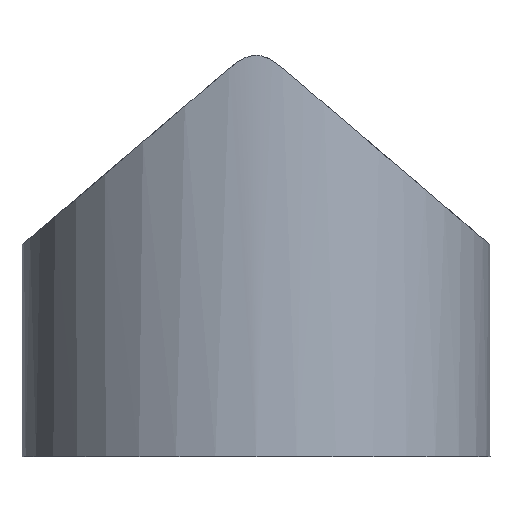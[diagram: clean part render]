
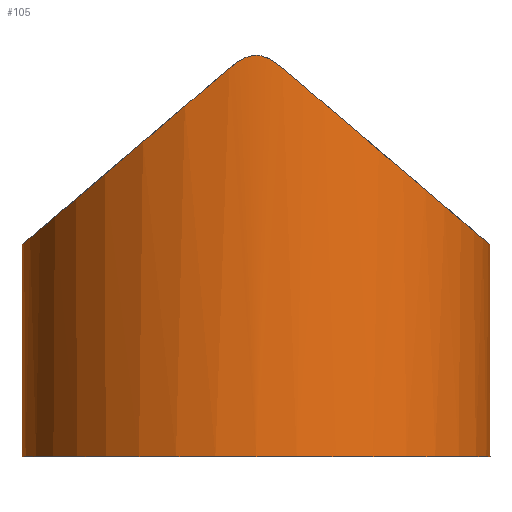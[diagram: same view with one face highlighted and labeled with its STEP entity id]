
A CAD part, left-side view. The second image highlights one B-rep face of the part: STEP entity #105.
In plain terms, the highlighted cylindrical face has radius 4.445 mm (diameter 8.89 mm), a full revolution.
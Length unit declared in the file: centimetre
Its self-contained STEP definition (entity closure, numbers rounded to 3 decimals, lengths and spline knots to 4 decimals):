
#34=CIRCLE('',#112,0.4445);
#35=CYLINDRICAL_SURFACE('',#111,0.4445);
#36=B_SPLINE_CURVE_WITH_KNOTS('',3,(#158,#159,#160,#161,#162,#163,#164,#165,
#166,#167),.UNSPECIFIED.,.F.,.U.,(4,2,2,2,4),(0.,0.0067,0.0297,
0.0439,0.0609),.UNSPECIFIED.);
#37=B_SPLINE_CURVE_WITH_KNOTS('',3,(#169,#170,#171,#172,#173,#174,#175,#176,
#177,#178,#179,#180),.UNSPECIFIED.,.F.,.U.,(4,2,2,2,2,4),(0.,0.0156,
0.027,0.0308,0.0327,0.0345),
 .UNSPECIFIED.);
#38=B_SPLINE_CURVE_WITH_KNOTS('',3,(#203,#204,#205,#206,#207,#208,#209,#210,
#211,#212,#213,#214),.UNSPECIFIED.,.F.,.U.,(4,2,2,2,2,4),(0.,0.0156,
0.027,0.0308,0.0327,0.0345),
 .UNSPECIFIED.);
#39=B_SPLINE_CURVE_WITH_KNOTS('',3,(#215,#216,#217,#218,#219,#220,#221,#222,
#223,#224),.UNSPECIFIED.,.F.,.U.,(4,2,2,2,4),(0.,0.006,0.0355,
0.0555,0.0777),.UNSPECIFIED.);
#48=VERTEX_POINT('',#130);
#49=VERTEX_POINT('',#131);
#50=VERTEX_POINT('',#135);
#51=VERTEX_POINT('',#136);
#52=VERTEX_POINT('',#168);
#53=VERTEX_POINT('',#181);
#54=VERTEX_POINT('',#227);
#55=ELLIPSE('',#108,0.5839,0.4445);
#56=ELLIPSE('',#110,0.5839,0.4445);
#57=EDGE_CURVE('',#48,#49,#55,.T.);
#59=EDGE_CURVE('',#50,#51,#56,.T.);
#61=EDGE_CURVE('',#51,#52,#36,.T.);
#62=EDGE_CURVE('',#53,#50,#37,.T.);
#64=EDGE_CURVE('',#52,#48,#38,.T.);
#65=EDGE_CURVE('',#49,#53,#39,.T.);
#66=EDGE_CURVE('',#54,#54,#34,.T.);
#79=ORIENTED_EDGE('',*,*,#59,.T.);
#80=ORIENTED_EDGE('',*,*,#61,.T.);
#81=ORIENTED_EDGE('',*,*,#64,.T.);
#82=ORIENTED_EDGE('',*,*,#57,.T.);
#83=ORIENTED_EDGE('',*,*,#65,.T.);
#84=ORIENTED_EDGE('',*,*,#62,.T.);
#85=ORIENTED_EDGE('',*,*,#66,.T.);
#91=EDGE_LOOP('',(#79,#80,#81,#82,#83,#84));
#92=EDGE_LOOP('',(#85));
#98=FACE_BOUND('',#91,.T.);
#99=FACE_BOUND('',#92,.T.);
#105=ADVANCED_FACE('',(#98,#99),#35,.T.);
#108=AXIS2_PLACEMENT_3D('',#129,#115,#116);
#110=AXIS2_PLACEMENT_3D('',#134,#119,#120);
#111=AXIS2_PLACEMENT_3D('',#225,#123,#124);
#112=AXIS2_PLACEMENT_3D('',#226,#125,#126);
#115=DIRECTION('',(0.,0.649,-0.761));
#116=DIRECTION('',(0.,0.445,0.379));
#119=DIRECTION('',(0.,-0.649,-0.761));
#120=DIRECTION('',(0.,0.445,-0.379));
#123=DIRECTION('',(0.,0.,1.));
#124=DIRECTION('',(0.445,0.,0.));
#125=DIRECTION('',(0.,0.,1.));
#126=DIRECTION('',(0.445,0.,0.));
#129=CARTESIAN_POINT('',(0.,0.,0.7808));
#130=CARTESIAN_POINT('',(0.4417,-0.0502,0.7381));
#131=CARTESIAN_POINT('',(-0.4417,-0.0502,0.7381));
#134=CARTESIAN_POINT('',(0.,0.,0.7808));
#135=CARTESIAN_POINT('',(-0.4417,0.0502,0.7381));
#136=CARTESIAN_POINT('',(0.4417,0.0502,0.7381));
#158=CARTESIAN_POINT('',(0.4417,0.0502,0.7381));
#159=CARTESIAN_POINT('',(0.4418,0.0485,0.7395));
#160=CARTESIAN_POINT('',(0.4421,0.0465,0.7411));
#161=CARTESIAN_POINT('',(0.4429,0.0382,0.7476));
#162=CARTESIAN_POINT('',(0.4435,0.0312,0.7524));
#163=CARTESIAN_POINT('',(0.4441,0.0194,0.7581));
#164=CARTESIAN_POINT('',(0.4442,0.0156,0.7595));
#165=CARTESIAN_POINT('',(0.4444,0.0083,0.7614));
#166=CARTESIAN_POINT('',(0.4445,0.0041,0.762));
#167=CARTESIAN_POINT('',(0.4445,0.,0.762));
#168=CARTESIAN_POINT('',(0.4445,0.,0.762));
#169=CARTESIAN_POINT('',(-0.4445,0.,0.762));
#170=CARTESIAN_POINT('',(-0.4445,0.0052,0.762));
#171=CARTESIAN_POINT('',(-0.4444,0.0104,0.7611));
#172=CARTESIAN_POINT('',(-0.4441,0.019,0.7583));
#173=CARTESIAN_POINT('',(-0.4439,0.0252,0.7558));
#174=CARTESIAN_POINT('',(-0.443,0.0366,0.7485));
#175=CARTESIAN_POINT('',(-0.4428,0.0394,0.7465));
#176=CARTESIAN_POINT('',(-0.4424,0.0435,0.7435));
#177=CARTESIAN_POINT('',(-0.4422,0.0448,0.7425));
#178=CARTESIAN_POINT('',(-0.442,0.0475,0.7403));
#179=CARTESIAN_POINT('',(-0.4418,0.0489,0.7392));
#180=CARTESIAN_POINT('',(-0.4417,0.0502,0.7381));
#181=CARTESIAN_POINT('',(-0.4445,0.,0.762));
#203=CARTESIAN_POINT('',(0.4445,0.,0.762));
#204=CARTESIAN_POINT('',(0.4445,-0.0052,0.762));
#205=CARTESIAN_POINT('',(0.4444,-0.0104,0.7611));
#206=CARTESIAN_POINT('',(0.4441,-0.019,0.7583));
#207=CARTESIAN_POINT('',(0.4439,-0.0252,0.7558));
#208=CARTESIAN_POINT('',(0.443,-0.0366,0.7485));
#209=CARTESIAN_POINT('',(0.4428,-0.0394,0.7465));
#210=CARTESIAN_POINT('',(0.4424,-0.0435,0.7435));
#211=CARTESIAN_POINT('',(0.4422,-0.0448,0.7425));
#212=CARTESIAN_POINT('',(0.442,-0.0475,0.7403));
#213=CARTESIAN_POINT('',(0.4418,-0.0489,0.7392));
#214=CARTESIAN_POINT('',(0.4417,-0.0502,0.7381));
#215=CARTESIAN_POINT('',(-0.4417,-0.0502,0.7381));
#216=CARTESIAN_POINT('',(-0.4418,-0.0487,0.7393));
#217=CARTESIAN_POINT('',(-0.442,-0.047,0.7407));
#218=CARTESIAN_POINT('',(-0.443,-0.0376,0.7481));
#219=CARTESIAN_POINT('',(-0.4435,-0.0307,0.7525));
#220=CARTESIAN_POINT('',(-0.4441,-0.02,0.7579));
#221=CARTESIAN_POINT('',(-0.4442,-0.0162,0.7593));
#222=CARTESIAN_POINT('',(-0.4444,-0.0085,0.7614));
#223=CARTESIAN_POINT('',(-0.4445,-0.0042,0.762));
#224=CARTESIAN_POINT('',(-0.4445,0.,0.762));
#225=CARTESIAN_POINT('',(0.,0.,0.));
#226=CARTESIAN_POINT('',(0.,0.,0.));
#227=CARTESIAN_POINT('',(0.4445,0.,0.));
